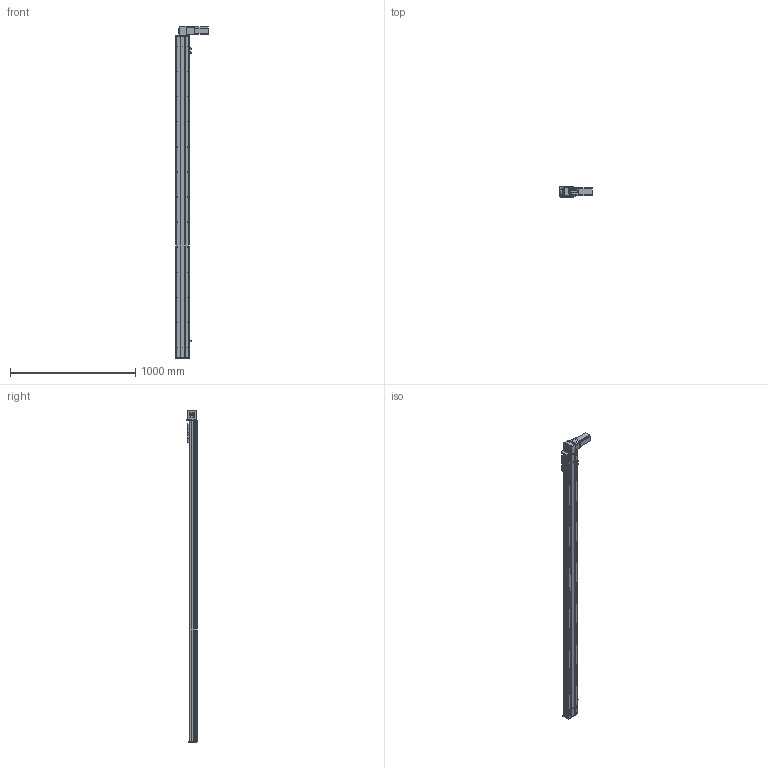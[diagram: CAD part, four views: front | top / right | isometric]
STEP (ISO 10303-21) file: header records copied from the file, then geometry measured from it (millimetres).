
FILE_DESCRIPTION (( 'STEP AP203' ), '1' );
FILE_NAME ('Y10CB-D90-S2300-BD-P400W.STEP', '2020-02-17T03:00:56', ( '微软用户' ), ( '微软中国' ), 'SwSTEP 2.0', 'SolidWorks 2017', '' );
FILE_SCHEMA (( 'CONFIG_CONTROL_DESIGN' ));
Length unit declared in the file: millimetre
Products named in the file (16): Y10C---詩湍揤啣; 0CB-雄赽釱---; 10CB9-掛极; 0Cb-俋欶---; 10CB-耜裔; Y10B-々湍喘謫眊楊擘啣--; Y135C-陔俋离換覜結え-; san松下电机400不带刹车----; Y100-135俋离換覜ん--; 0B-源倛裔啣; Y10B--々湍喘謫眊--666; 0B-埴倛裔啣; 0B-薊粣ん眊; 10CB-詩湍-; Y10CB-D90-S2300-BD-P400W; Y10CB- 掛极耜裔啣-毀---
Assembly tree (19 placements, depth 2):
  Y10CB-D90-S2300-BD-P400W
    0CB-雄赽釱---
    0Cb-俋欶---
    Y10B-々湍喘謫眊楊擘啣--
    san松下电机400不带刹车----
    0B-源倛裔啣
    0B-埴倛裔啣
    10CB-詩湍-
    Y10CB- 掛极耜裔啣-毀---  x2
    Y10C---詩湍揤啣  x2
    10CB9-掛极
    10CB-耜裔
    Y135C-陔俋离換覜結え-
    Y100-135俋离換覜ん--  x3
    Y10B--々湍喘謫眊--666
    0B-薊粣ん眊
Bounding box: 258 x 80.5 x 2646 mm (x, y, z)
Volume: 5404875.4 mm3; surface area: 2512212.6 mm2
Topology: 19 solids, 19 shells, 972 faces, 2622 edges, 1700 vertices
Faces by surface type: cylinder 500, plane 448, cone 24
Entity records: 30569 total; most frequent: CARTESIAN_POINT 5792, DIRECTION 4865, ORIENTED_EDGE 4714, EDGE_CURVE 2357, AXIS2_PLACEMENT_3D 1743, VERTEX_POINT 1526, VECTOR 1379, LINE 1379
